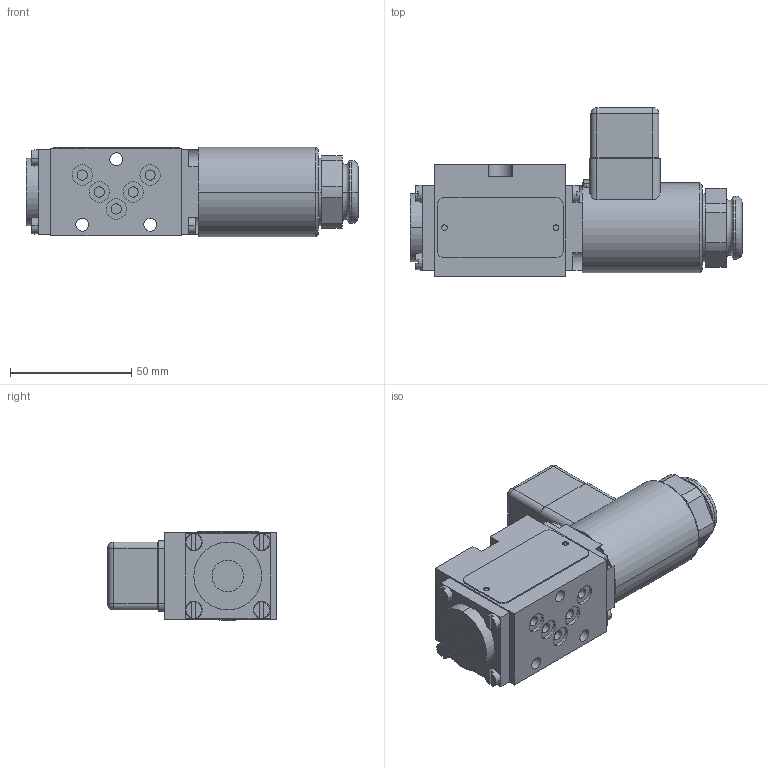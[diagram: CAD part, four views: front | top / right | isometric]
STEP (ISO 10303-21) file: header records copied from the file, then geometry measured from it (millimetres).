
FILE_DESCRIPTION((''),'2;1');
FILE_NAME('RPE2-043-2_ASM','2019-08-21T',('j.koudelka'),(''),'PRO/ENGINEER BY PARAMETRIC TECHNOLOGY CORPORATION, 2015440','PRO/ENGINEER BY PARAMETRIC TECHNOLOGY CORPORATION, 2015440','');
FILE_SCHEMA(('AUTOMOTIVE_DESIGN { 1 0 10303 214 1 1 1 1 }'));
Length unit declared in the file: millimetre
Products named in the file (7): RPE2-043-2_AF0; 32246100; C19B_E1_AF1; RD_LABEL_25X52_159703; ISO_1207_M4X12_202229; ZATKA2_AF0; RPE2-043-2_ASM
Assembly tree (12 placements, depth 2):
  RPE2-043-2_ASM
    RPE2-043-2_AF0
    32246100
    C19B_E1_AF1
    RD_LABEL_25X52_159703
    ISO_1207_M4X12_202229  x7
    ZATKA2_AF0
Bounding box: 136.9 x 69.5 x 37 mm (x, y, z)
Volume: 194394.9 mm3; surface area: 47848.7 mm2
Topology: 12 solids, 21 shells, 322 faces, 899 edges, 703 vertices
Faces by surface type: plane 144, cylinder 140, cone 26, torus 8, sphere 4
Entity records: 12000 total; most frequent: CARTESIAN_POINT 1515, DIRECTION 1511, ORIENTED_EDGE 1098, PRESENTATION_STYLE_ASSIGNMENT 838, STYLED_ITEM 739, CURVE_STYLE 716, EDGE_CURVE 553, AXIS2_PLACEMENT_3D 546
